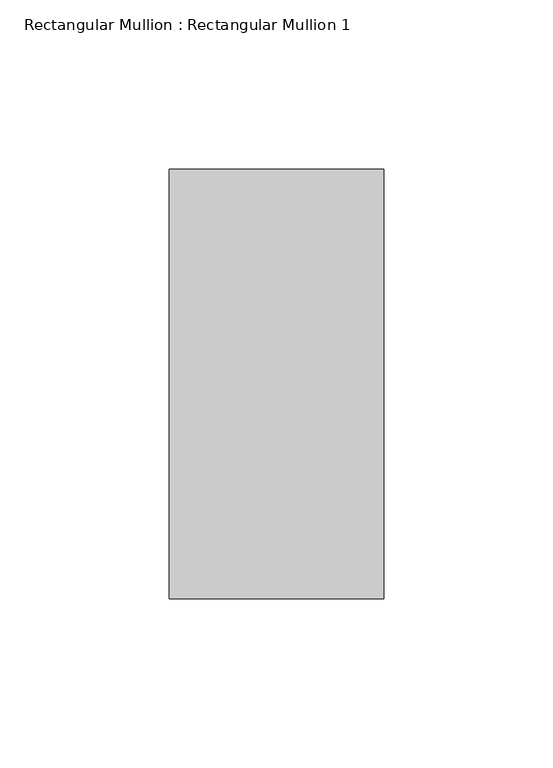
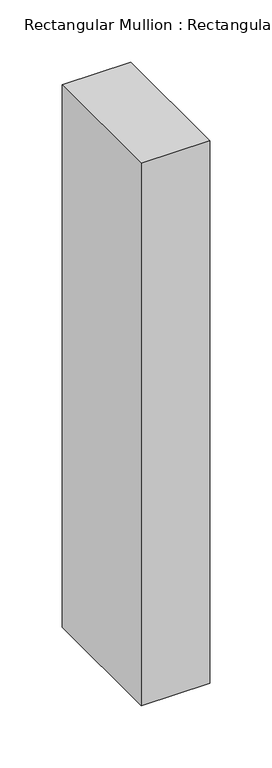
"""IFC4 building model written with IfcOpenShell, lengths in millimetres: member geometry, Rectangular Mullion : Rectangular Mullion 1."""

from ifc_helpers import new_model, si_unit, frame, origin, place, context, project, spatial, polyline, outline, extrude, source, transform, mapped, element, save


def rectangular_mullion_rectangular_mullion_1_029c0367(model_context):
    return source(origin(), model_context, "Body", "SweptSolid", [
        extrude(outline(polyline([(0.0, 63.5), (0.0, -63.5), (-63.5, -63.5), (-63.5, 63.5), (0.0, 63.5)])), frame((0.0, 0.0, -532.3237974), z_axis=(0.0, 0.0, 1.0), x_axis=(1.0, 0.0, 0.0)), (0.0, 0.0, 1.0), 532.3237974),
    ])


if __name__ == "__main__":
    model = new_model("IFC4")
    model_context = context("Model", 3, world=origin())
    ifc_project = project(units=[si_unit("LENGTHUNIT", "METRE", prefix="MILLI")], contexts=[model_context])
    site = spatial("IfcSite", under=ifc_project)
    building = spatial("IfcBuilding", under=site)
    placement = place(None, origin())
    rectangular_mullion_rectangular_mullion_1_shape = rectangular_mullion_rectangular_mullion_1_029c0367(model_context)
    element("IfcMember", 1, ObjectType="Rectangular Mullion : Rectangular Mullion 1", at=placement, inside=building, context=model_context, shape_type="MappedRepresentation", body=[
        mapped(rectangular_mullion_rectangular_mullion_1_shape, transform((0.0, 0.0, 0.0), x_axis=(1.0, 0.0, 0.0), y_axis=(0.0, 1.0, 0.0), z_axis=(0.0, 0.0, 1.0))),
    ])
    save(model, "model.ifc")
